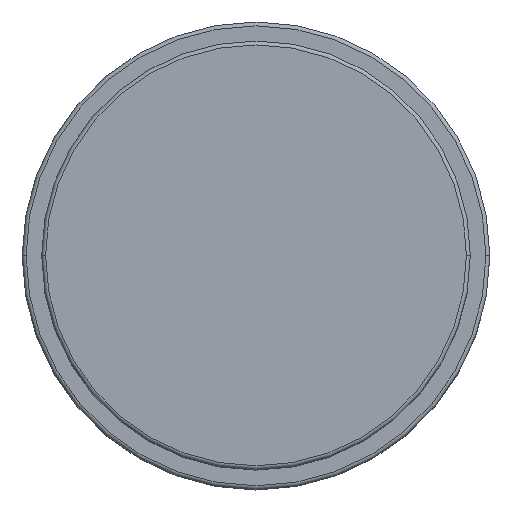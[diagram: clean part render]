
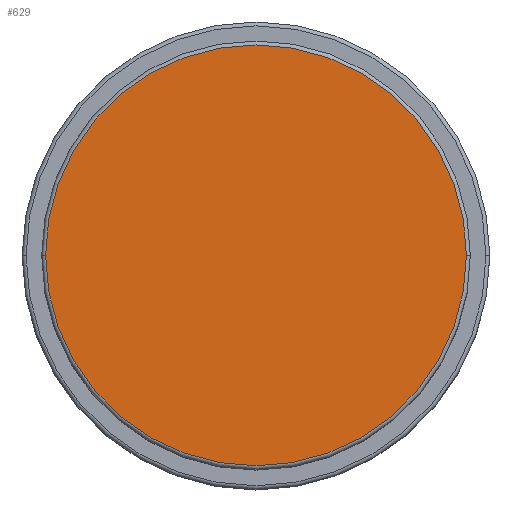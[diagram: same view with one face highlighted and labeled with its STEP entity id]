
A CAD part, top view. The second image highlights one B-rep face of the part: STEP entity #629.
In plain terms, the highlighted planar face has unit normal (0, 0, 1).
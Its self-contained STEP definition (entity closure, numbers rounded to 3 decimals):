
#46 = CARTESIAN_POINT ( 'NONE',  ( 0., 0., 61. ) ) ;
#95 = DIRECTION ( 'NONE',  ( 1., 0., 0. ) ) ;
#111 = DIRECTION ( 'NONE',  ( 0., 0., 1. ) ) ;
#141 = CIRCLE ( 'NONE', #410, 27. ) ;
#229 = PLANE ( 'NONE',  #314 ) ;
#260 = DIRECTION ( 'NONE',  ( 1., 0., 0. ) ) ;
#314 = AXIS2_PLACEMENT_3D ( 'NONE', #865, #111, #95 ) ;
#375 = EDGE_CURVE ( 'NONE', #1282, #494, #1472, .T. ) ;
#410 = AXIS2_PLACEMENT_3D ( 'NONE', #887, #1409, #260 ) ;
#494 = VERTEX_POINT ( 'NONE', #1452 ) ;
#540 = DIRECTION ( 'NONE',  ( 1., 0., 0. ) ) ;
#629 = ADVANCED_FACE ( 'NONE', ( #833 ), #229, .T. ) ;
#636 = ORIENTED_EDGE ( 'NONE', *, *, #375, .T. ) ;
#747 = CARTESIAN_POINT ( 'NONE',  ( 27., 0., 61. ) ) ;
#833 = FACE_OUTER_BOUND ( 'NONE', #1313, .T. ) ;
#865 = CARTESIAN_POINT ( 'NONE',  ( 0., 0., 61. ) ) ;
#887 = CARTESIAN_POINT ( 'NONE',  ( 0., 0., 61. ) ) ;
#920 = ORIENTED_EDGE ( 'NONE', *, *, #1558, .T. ) ;
#1188 = DIRECTION ( 'NONE',  ( 0., 0., 1. ) ) ;
#1282 = VERTEX_POINT ( 'NONE', #747 ) ;
#1313 = EDGE_LOOP ( 'NONE', ( #636, #920 ) ) ;
#1390 = AXIS2_PLACEMENT_3D ( 'NONE', #46, #1188, #540 ) ;
#1409 = DIRECTION ( 'NONE',  ( 0., 0., 1. ) ) ;
#1452 = CARTESIAN_POINT ( 'NONE',  ( -27., 0., 61. ) ) ;
#1472 = CIRCLE ( 'NONE', #1390, 27. ) ;
#1558 = EDGE_CURVE ( 'NONE', #494, #1282, #141, .T. ) ;
